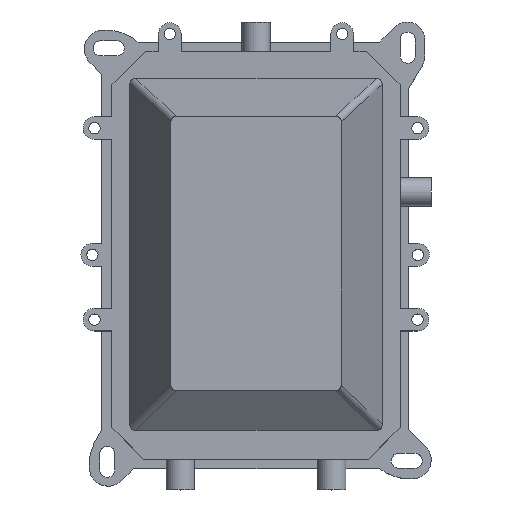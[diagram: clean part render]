
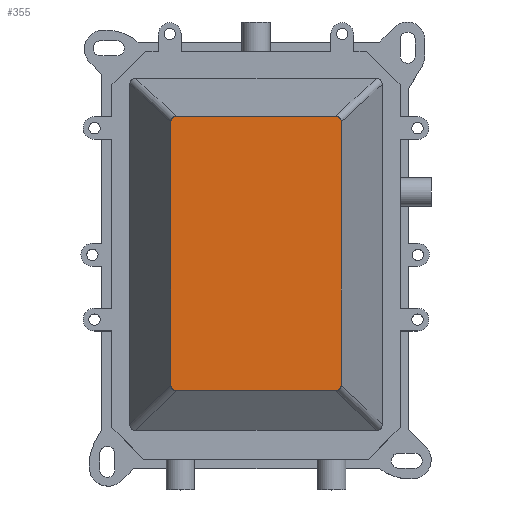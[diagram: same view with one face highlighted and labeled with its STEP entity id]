
A CAD part, top view. The second image highlights one B-rep face of the part: STEP entity #355.
In plain terms, the highlighted planar face has unit normal (0, 0, 1).
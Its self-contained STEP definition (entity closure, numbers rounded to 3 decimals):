
#9 = DIRECTION ( 'NONE',  ( 1., 0., 0. ) ) ;
#11 = VERTEX_POINT ( 'NONE', #2815 ) ;
#50 = ORIENTED_EDGE ( 'NONE', *, *, #1300, .T. ) ;
#59 = CARTESIAN_POINT ( 'NONE',  ( 405.784, 385.18, 737.613 ) ) ;
#104 = CARTESIAN_POINT ( 'NONE',  ( 405.784, 528.979, 737.613 ) ) ;
#168 = LINE ( 'NONE', #4749, #4382 ) ;
#232 = CARTESIAN_POINT ( 'NONE',  ( 319.547, 529.58, 737.613 ) ) ;
#246 = CARTESIAN_POINT ( 'NONE',  ( 316.94, 526.58, 737.613 ) ) ;
#256 = CARTESIAN_POINT ( 'NONE',  ( 316.94, 387.58, 737.613 ) ) ;
#297 = CARTESIAN_POINT ( 'NONE',  ( 317.018, 527.364, 737.613 ) ) ;
#302 = CARTESIAN_POINT ( 'NONE',  ( 403.94, 529.58, 737.613 ) ) ;
#333 = CARTESIAN_POINT ( 'NONE',  ( 318.429, 529.201, 737.613 ) ) ;
#352 = VECTOR ( 'NONE', #1878, 1000. ) ;
#355 = ADVANCED_FACE ( 'NONE', ( #3242 ), #1219, .T. ) ;
#436 = ORIENTED_EDGE ( 'NONE', *, *, #3308, .T. ) ;
#461 = CARTESIAN_POINT ( 'NONE',  ( 406.562, 386.068, 737.613 ) ) ;
#496 = CARTESIAN_POINT ( 'NONE',  ( 404.725, 529.502, 737.613 ) ) ;
#498 = CARTESIAN_POINT ( 'NONE',  ( 406.94, 387.58, 737.613 ) ) ;
#647 = CARTESIAN_POINT ( 'NONE',  ( 317.541, 385.736, 737.613 ) ) ;
#737 = EDGE_CURVE ( 'NONE', #761, #4756, #2229, .T. ) ;
#761 = VERTEX_POINT ( 'NONE', #5069 ) ;
#855 = CARTESIAN_POINT ( 'NONE',  ( 406.94, 387.185, 737.613 ) ) ;
#897 = CARTESIAN_POINT ( 'NONE',  ( 403.94, 529.58, 737.613 ) ) ;
#1050 = CARTESIAN_POINT ( 'NONE',  ( 318.429, 384.958, 737.613 ) ) ;
#1219 = PLANE ( 'NONE',  #2124 ) ;
#1235 = CARTESIAN_POINT ( 'NONE',  ( 404.334, 384.58, 737.613 ) ) ;
#1300 = EDGE_CURVE ( 'NONE', #4174, #11, #4932, .T. ) ;
#1356 = VERTEX_POINT ( 'NONE', #1719 ) ;
#1404 = LINE ( 'NONE', #498, #4800 ) ;
#1450 = CARTESIAN_POINT ( 'NONE',  ( 319.546, 384.58, 737.613 ) ) ;
#1483 = ORIENTED_EDGE ( 'NONE', *, *, #737, .T. ) ;
#1490 = CARTESIAN_POINT ( 'NONE',  ( 319.94, 529.58, 737.613 ) ) ;
#1719 = CARTESIAN_POINT ( 'NONE',  ( 406.94, 387.58, 737.613 ) ) ;
#1811 = EDGE_CURVE ( 'NONE', #11, #761, #3514, .T. ) ;
#1878 = DIRECTION ( 'NONE',  ( -1., 0., 0. ) ) ;
#2083 = CARTESIAN_POINT ( 'NONE',  ( 406.863, 527.364, 737.613 ) ) ;
#2087 = CARTESIAN_POINT ( 'NONE',  ( 361.94, 457.08, 737.613 ) ) ;
#2124 = AXIS2_PLACEMENT_3D ( 'NONE', #2087, #4810, #3576 ) ;
#2229 = B_SPLINE_CURVE_WITH_KNOTS ( 'NONE', 3,
 ( #1490, #232, #2992, #333, #2689, #3055, #3859, #297, #4215, #246 ),
 .UNSPECIFIED., .F., .F.,
 ( 4, 2, 2, 2, 4 ),
 ( 0., 0.25, 0.5, 0.75, 1. ),
 .UNSPECIFIED. ) ;
#2311 = DIRECTION ( 'NONE',  ( 0., -1., 0. ) ) ;
#2405 = ORIENTED_EDGE ( 'NONE', *, *, #1811, .T. ) ;
#2424 = EDGE_CURVE ( 'NONE', #4164, #3246, #168, .T. ) ;
#2441 = CARTESIAN_POINT ( 'NONE',  ( 405.452, 384.958, 737.613 ) ) ;
#2473 = CARTESIAN_POINT ( 'NONE',  ( 406.34, 528.423, 737.613 ) ) ;
#2589 = EDGE_CURVE ( 'NONE', #1356, #4174, #1404, .T. ) ;
#2689 = CARTESIAN_POINT ( 'NONE',  ( 318.097, 528.979, 737.613 ) ) ;
#2815 = CARTESIAN_POINT ( 'NONE',  ( 403.94, 529.58, 737.613 ) ) ;
#2830 = CARTESIAN_POINT ( 'NONE',  ( 406.34, 385.736, 737.613 ) ) ;
#2839 = CARTESIAN_POINT ( 'NONE',  ( 406.94, 526.58, 737.613 ) ) ;
#2874 = CARTESIAN_POINT ( 'NONE',  ( 405.452, 529.201, 737.613 ) ) ;
#2927 = EDGE_LOOP ( 'NONE', ( #1483, #2998, #3603, #3536, #436, #3077, #50, #2405 ) ) ;
#2992 = CARTESIAN_POINT ( 'NONE',  ( 319.156, 529.502, 737.613 ) ) ;
#2998 = ORIENTED_EDGE ( 'NONE', *, *, #3113, .T. ) ;
#3019 = CARTESIAN_POINT ( 'NONE',  ( 317.319, 386.068, 737.613 ) ) ;
#3055 = CARTESIAN_POINT ( 'NONE',  ( 317.541, 528.423, 737.613 ) ) ;
#3077 = ORIENTED_EDGE ( 'NONE', *, *, #2589, .T. ) ;
#3113 = EDGE_CURVE ( 'NONE', #4756, #4732, #4781, .T. ) ;
#3224 = CARTESIAN_POINT ( 'NONE',  ( 406.863, 386.795, 737.613 ) ) ;
#3242 = FACE_OUTER_BOUND ( 'NONE', #2927, .T. ) ;
#3246 = VERTEX_POINT ( 'NONE', #3956 ) ;
#3267 = CARTESIAN_POINT ( 'NONE',  ( 404.335, 529.58, 737.613 ) ) ;
#3269 = DIRECTION ( 'NONE',  ( 0., 1., 0. ) ) ;
#3308 = EDGE_CURVE ( 'NONE', #3246, #1356, #4229, .T. ) ;
#3424 = CARTESIAN_POINT ( 'NONE',  ( 318.097, 385.18, 737.613 ) ) ;
#3514 = LINE ( 'NONE', #302, #352 ) ;
#3519 = EDGE_CURVE ( 'NONE', #4732, #4164, #3678, .T. ) ;
#3536 = ORIENTED_EDGE ( 'NONE', *, *, #2424, .T. ) ;
#3576 = DIRECTION ( 'NONE',  ( -1., 0., 0. ) ) ;
#3603 = ORIENTED_EDGE ( 'NONE', *, *, #3519, .T. ) ;
#3631 = CARTESIAN_POINT ( 'NONE',  ( 406.94, 387.58, 737.613 ) ) ;
#3678 = B_SPLINE_CURVE_WITH_KNOTS ( 'NONE', 3,
 ( #256, #5009, #4209, #3019, #647, #3424, #1050, #3820, #1450, #4222 ),
 .UNSPECIFIED., .F., .F.,
 ( 4, 2, 2, 2, 4 ),
 ( 0., 0.25, 0.5, 0.75, 1. ),
 .UNSPECIFIED. ) ;
#3755 = CARTESIAN_POINT ( 'NONE',  ( 316.94, 387.58, 737.613 ) ) ;
#3820 = CARTESIAN_POINT ( 'NONE',  ( 319.156, 384.657, 737.613 ) ) ;
#3857 = VECTOR ( 'NONE', #2311, 1000. ) ;
#3859 = CARTESIAN_POINT ( 'NONE',  ( 317.319, 528.091, 737.613 ) ) ;
#3956 = CARTESIAN_POINT ( 'NONE',  ( 403.94, 384.58, 737.613 ) ) ;
#4005 = CARTESIAN_POINT ( 'NONE',  ( 403.94, 384.58, 737.613 ) ) ;
#4052 = CARTESIAN_POINT ( 'NONE',  ( 406.94, 526.58, 737.613 ) ) ;
#4164 = VERTEX_POINT ( 'NONE', #4407 ) ;
#4174 = VERTEX_POINT ( 'NONE', #2839 ) ;
#4209 = CARTESIAN_POINT ( 'NONE',  ( 317.018, 386.795, 737.613 ) ) ;
#4215 = CARTESIAN_POINT ( 'NONE',  ( 316.94, 526.974, 737.613 ) ) ;
#4222 = CARTESIAN_POINT ( 'NONE',  ( 319.94, 384.58, 737.613 ) ) ;
#4229 = B_SPLINE_CURVE_WITH_KNOTS ( 'NONE', 3,
 ( #4005, #1235, #4802, #2441, #59, #2830, #461, #3224, #855, #3631 ),
 .UNSPECIFIED., .F., .F.,
 ( 4, 2, 2, 2, 4 ),
 ( 0., 0.25, 0.5, 0.75, 1. ),
 .UNSPECIFIED. ) ;
#4382 = VECTOR ( 'NONE', #9, 1000. ) ;
#4407 = CARTESIAN_POINT ( 'NONE',  ( 319.94, 384.58, 737.613 ) ) ;
#4451 = CARTESIAN_POINT ( 'NONE',  ( 406.94, 526.973, 737.613 ) ) ;
#4675 = CARTESIAN_POINT ( 'NONE',  ( 316.94, 526.58, 737.613 ) ) ;
#4732 = VERTEX_POINT ( 'NONE', #3755 ) ;
#4749 = CARTESIAN_POINT ( 'NONE',  ( 319.94, 384.58, 737.613 ) ) ;
#4756 = VERTEX_POINT ( 'NONE', #4960 ) ;
#4781 = LINE ( 'NONE', #4675, #3857 ) ;
#4800 = VECTOR ( 'NONE', #3269, 1000. ) ;
#4802 = CARTESIAN_POINT ( 'NONE',  ( 404.725, 384.657, 737.613 ) ) ;
#4810 = DIRECTION ( 'NONE',  ( 0., 0., 1. ) ) ;
#4843 = CARTESIAN_POINT ( 'NONE',  ( 406.562, 528.091, 737.613 ) ) ;
#4932 = B_SPLINE_CURVE_WITH_KNOTS ( 'NONE', 3,
 ( #4052, #4451, #2083, #4843, #2473, #104, #2874, #496, #3267, #897 ),
 .UNSPECIFIED., .F., .F.,
 ( 4, 2, 2, 2, 4 ),
 ( 0., 0.25, 0.5, 0.75, 1. ),
 .UNSPECIFIED. ) ;
#4960 = CARTESIAN_POINT ( 'NONE',  ( 316.94, 526.58, 737.613 ) ) ;
#5009 = CARTESIAN_POINT ( 'NONE',  ( 316.94, 387.186, 737.613 ) ) ;
#5069 = CARTESIAN_POINT ( 'NONE',  ( 319.94, 529.58, 737.613 ) ) ;
